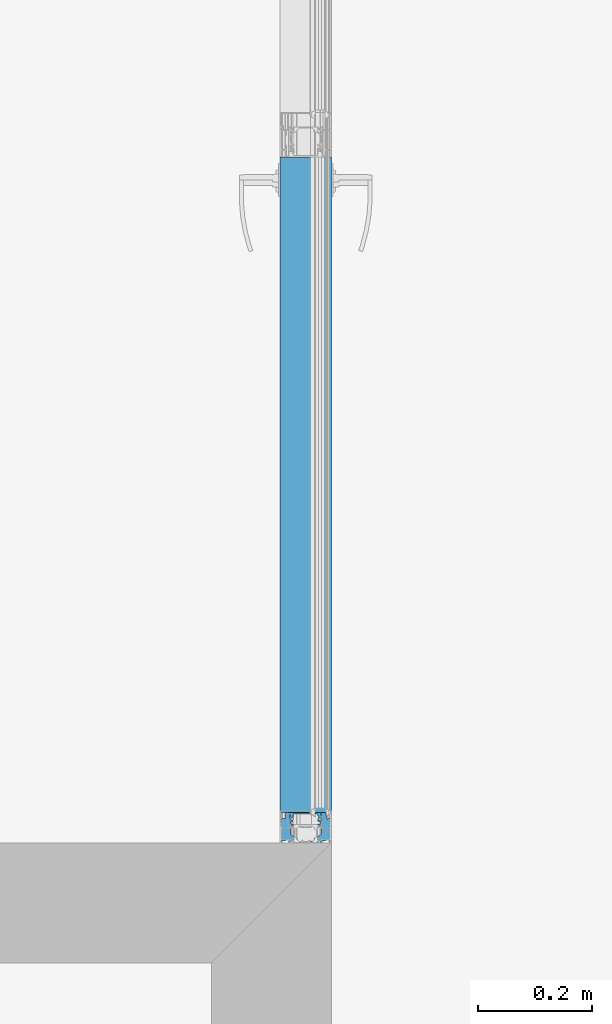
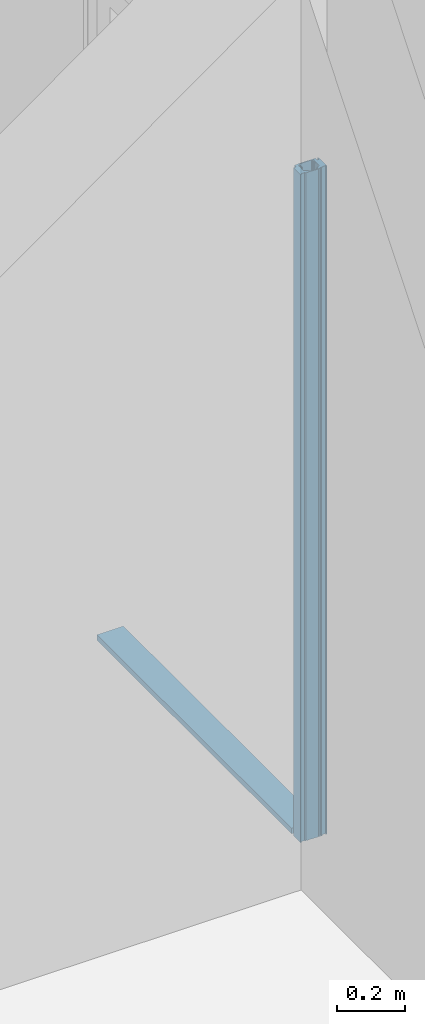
# One storey, part 4 of 89: 2 members, 1 element without a shape of its own.
"""IFC2X3 building model written with IfcOpenShell, lengths in millimetres."""

from ifc_helpers import new_model, entity, si_unit, converted_unit, derived_unit, money_unit, direction, frame, origin_with_axes, place, context, subcontext, project, spatial, polyline, outline, extrude, material, type_object, element, aggregate, save


model = new_model("IFC2X3")

# Units and contexts
model_context = context("Model", 3, precision=0.01, world=origin_with_axes(), true_north=direction((0.0, 1.0)))
body_context = subcontext(model_context, "Body", "Model", "MODEL_VIEW")
ifc_project = project(units=[si_unit("LENGTHUNIT", "METRE", prefix="MILLI"), si_unit("AREAUNIT", "SQUARE_METRE"), si_unit("VOLUMEUNIT", "CUBIC_METRE"), converted_unit("PLANEANGLEUNIT", "DEGREE", entity("IfcPlaneAngleMeasure", 0.0174532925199), si_unit("PLANEANGLEUNIT", "RADIAN"), dimensions=[0, 0, 0, 0, 0, 0, 0]), si_unit("SOLIDANGLEUNIT", "STERADIAN"), money_unit("EUR"), converted_unit("TIMEUNIT", "Year", entity("IfcTimeMeasure", 31556926.0), si_unit("TIMEUNIT", "SECOND"), dimensions=[0, 0, 1, 0, 0, 0, 0]), si_unit("MASSUNIT", "GRAM", prefix="KILO"), si_unit("THERMODYNAMICTEMPERATUREUNIT", "DEGREE_CELSIUS"), si_unit("LUMINOUSINTENSITYUNIT", "LUMEN"), si_unit("ENERGYUNIT", "JOULE", prefix="MEGA"), derived_unit("THERMALCONDUCTANCEUNIT", [(si_unit("POWERUNIT", "WATT"), 1), (si_unit("LENGTHUNIT", "METRE"), -1), (si_unit("THERMODYNAMICTEMPERATUREUNIT", "KELVIN"), -1)]), derived_unit("SPECIFICHEATCAPACITYUNIT", [(si_unit("ENERGYUNIT", "JOULE"), 1), (si_unit("MASSUNIT", "GRAM", prefix="KILO"), -1), (si_unit("THERMODYNAMICTEMPERATUREUNIT", "KELVIN"), -1)]), derived_unit("MASSDENSITYUNIT", [(si_unit("MASSUNIT", "GRAM", prefix="KILO"), 1), (si_unit("VOLUMEUNIT", "CUBIC_METRE"), -1)])], contexts=[model_context])

# Site, building, storey
site_placement = place(None, origin_with_axes())
site = spatial("IfcSite", under=ifc_project, at=site_placement, Name="Puškini 31, Narva", CompositionType="ELEMENT")
building_placement = place(site_placement, origin_with_axes())
building = spatial("IfcBuilding", under=site, at=building_placement, Name="Narva Riigigümnaasium", CompositionType="ELEMENT")
storey_placement = place(building_placement, frame((0.0, 0.0, -3300.0), z_axis=(0.0, 0.0, 1.0), x_axis=(1.0, 0.0, 0.0)))
storey = spatial("IfcBuildingStorey", under=building, at=storey_placement, Name="1.korrus -3.3", CompositionType="ELEMENT", Elevation=-3300.0)

# Curtain wall, members
curtain_wall_type = type_object("IfcCurtainWallType", Name="Curtain Wall Type", PredefinedType="NOTDEFINED")
curtain_wall_placement = place(storey_placement, frame((34855.0104166, 221770.599999, -2.45869391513e-05), z_axis=(0.0, 0.0, 1.0), x_axis=(1.0, 0.0, 0.0)))
curtain_wall = element("IfcCurtainWall", 1, at=curtain_wall_placement, inside=storey, type_object=curtain_wall_type, Name="G-SKLF-08")
ifc_material = material(Name="ET-04_Alumiinium")
member_type_1 = type_object("IfcMemberType", Name="53 x 45", PredefinedType="MULLION")
member_1_placement = place(curtain_wall_placement, frame((0.00211230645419, -490.599999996, 2.45869395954e-05), z_axis=(0.0, 0.0, 1.0), x_axis=(4.3055573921e-06, -0.999999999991, 0.0)))
member_1 = element("IfcMember", 2, at=member_1_placement, type_object=member_type_1, material=ifc_material, Name="G-SKLF-08-raam", ObjectType="MULLION", context=body_context, shape_type="SweptSolid", body=[
    extrude(outline(polyline([(-40.5000073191, 1.69982562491), (-42.0000073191, 1.69981916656), (-43.0000172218, 3.999814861), (-28.0000215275, 4.99987944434), (-27.0000116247, 2.69988374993), (-30.5000073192, 1.69986868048), (-26.0000008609, 0.199888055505), (-25.5000116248, 2.69989020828), (-21.0000137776, 3.19990958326), (-20.5000051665, 1.19991173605), (-22.2000051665, 1.19990441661), (-15.850000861, 0.199931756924), (-18.5500077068, 1.7899201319), (-18.740024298, 5.64336832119), (-15.157202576, 5.31843928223), (-13.9500331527, 7.6999399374), (-17.154657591, 8.69992613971), (-26.6650222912, 14.55301567), (-26.9001162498, 26.9998841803), (-26.4981989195, 28.4998859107), (-25.400127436, 29.5979668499), (-23.9001291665, 29.9998970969), (-20.7001351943, 31.3999108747), (-20.7001429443, 33.1999108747), (-22.5716828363, 33.3999028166), (-25.0501377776, 31.9998921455), (-26.2501580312, 36.7039467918), (-22.6659457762, 36.9089944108), (-20.7019960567, 46.6999105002), (-22.501974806, 41.7642618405), (-22.5019650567, 39.4999027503), (-24.8402881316, 38.9998926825), (-26.494050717, 38.5795130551), (-26.900179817, 41.7638841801), (-27.4002553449, 44.599882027), (-26.9002269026, 52.69988418), (-35.2002290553, 53.1998484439), (-35.7001829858, 42.4998462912), (-44.500180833, 41.9998084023), (-44.9999999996, -0.000193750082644), (-41.5999999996, -0.000179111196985), (-40.5000073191, 1.69982562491)])), frame((0.0, 0.0, 0.0), z_axis=(0.0, 0.0, 1.0), x_axis=(4.3055573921e-06, 0.999999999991, 0.0)), (0.0, 0.0, 1.0), 2400.0),
    extrude(outline(polyline([(-11.5049686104, 2.39995046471), (-13.352498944, 4.59994251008), (-17.2400280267, 6.50940018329), (-18.7400099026, 2.29991931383), (-15.8400077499, 1.79993179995), (15.0399991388, 0.200064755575), (18.2399922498, 1.80007853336), (18.7399757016, 5.64352969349), (14.9147218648, 5.16705151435), (12.3709711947, 2.90005326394), (-11.5049686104, 2.39995046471)])), frame((0.0, 0.0, 0.0), z_axis=(0.0, 0.0, 1.0), x_axis=(4.3055573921e-06, 0.999999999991, 0.0)), (0.0, 0.0, 1.0), 2400.0),
    extrude(outline(polyline([(27.2128241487, 44.2351089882), (26.6997709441, 53.2001149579), (-26.7002290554, 53.1998850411), (-26.7001920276, 44.5998850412), (-24.700180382, 43.1998936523), (-23.0049635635, 43.7247782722), (-22.7001922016, 47.2499022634), (-21.2001930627, 47.4499087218), (-21.000204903, 50.1999095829), (20.7997717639, 50.4000895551), (20.9997836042, 47.6500904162), (22.4997844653, 47.4500968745), (22.6997967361, 44.6000977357), (24.6998083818, 43.2001063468), (27.2128241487, 44.2351089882)])), frame((0.0, 0.0, 0.0), z_axis=(0.0, 0.0, 1.0), x_axis=(4.3055573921e-06, 0.999999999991, 0.0)), (0.0, 0.0, 1.0), 2400.0),
    extrude(outline(polyline([(44.9999999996, 0.000193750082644), (44.9997709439, 53.2001937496), (42.6997709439, 53.2001838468), (42.6998170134, 42.5001838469), (36.1998191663, 42.0001558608), (35.6997730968, 52.7001537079), (27.3997709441, 53.2001179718), (26.8998201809, 41.7644749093), (26.8998315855, 39.1156685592), (25.2465642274, 38.5812012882), (23.0015637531, 39.0000986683), (22.501551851, 41.7644556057), (22.001539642, 44.6000943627), (22.5015316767, 46.4500965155), (20.7015680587, 38.0000887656), (26.0498410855, 36.9092041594), (26.2498600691, 32.5001130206), (22.6713953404, 33.3733026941), (20.8998561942, 33.4000899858), (20.6998648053, 31.4000891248), (22.4998648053, 31.4000968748), (25.3998725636, 29.5981855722), (26.4979535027, 28.5001140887), (26.8998837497, 27.0001158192), (26.8999355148, 14.9772703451), (17.4195419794, 8.77605095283), (14.4499625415, 8.70006221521), (14.9499668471, 7.70006436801), (17.5499711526, 6.70007556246), (18.7499914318, 1.99008072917), (15.8499922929, 1.79006824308), (21.6999991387, 0.200093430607), (20.4999948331, 1.20008826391), (20.4999883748, 2.70008826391), (24.999986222, 3.20010763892), (25.4999969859, 0.700109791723), (29.4999991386, 0.200127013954), (27.9999926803, 1.7001205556), (26.9999827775, 4.00011625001), (41.9999784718, 5.00018083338), (42.9999883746, 2.70018513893), (40.4999926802, 1.70017437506), (41.5999999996, 0.000179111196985), (44.9999999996, 0.000193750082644)])), frame((0.0, 0.0, 0.0), z_axis=(0.0, 0.0, 1.0), x_axis=(4.3055573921e-06, 0.999999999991, 0.0)), (0.0, 0.0, 1.0), 2400.0),
])
member_type_2 = type_object("IfcMemberType", Name="20 x 90", PredefinedType="MULLION")
member_2_placement = place(curtain_wall_placement, frame((0.00188411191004, -437.599999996, 2.45869395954e-05), z_axis=(-4.30555739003e-06, 0.999999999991, 0.0), x_axis=(0.0, 0.0, 1.0)))
member_2 = element("IfcMember", 3, at=member_2_placement, type_object=member_type_2, material=ifc_material, Name="G-SKLF-08-raam", ObjectType="MULLION", context=body_context, shape_type="SweptSolid", body=[
    extrude(outline(polyline([(-45.0, -20.0), (45.0, -20.0), (45.0, 0.0), (-45.0, 0.0), (-45.0, -20.0)])), frame((0.0, 0.0, 0.0), z_axis=(0.0, 0.0, 1.0), x_axis=(0.0, 1.0, 0.0)), (0.0, 0.0, 1.0), 1147.0),
])
aggregate(curtain_wall, [member_1, member_2])

save(model, "model.ifc")
